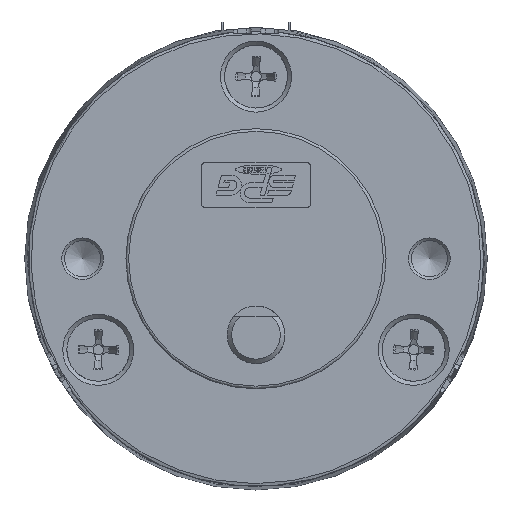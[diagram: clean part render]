
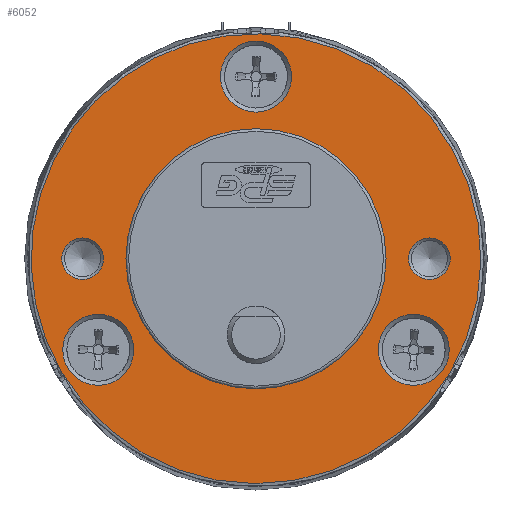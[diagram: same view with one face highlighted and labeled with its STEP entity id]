
A CAD part, front view. The second image highlights one B-rep face of the part: STEP entity #6052.
In plain terms, the highlighted planar face has unit normal (0, -1, 0).
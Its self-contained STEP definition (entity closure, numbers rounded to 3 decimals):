
#5966=CARTESIAN_POINT('',(-17.918,19.05,10.37));
#5967=VERTEX_POINT('',#5966);
#5968=CARTESIAN_POINT('',(-20.199,19.05,10.37));
#5969=DIRECTION('',(0.0,-1.0,0.0));
#5970=DIRECTION('',(-1.0,0.0,0.0));
#5971=AXIS2_PLACEMENT_3D('',#5968,#5969,#5970);
#5972=CIRCLE('',#5971,2.281);
#5973=EDGE_CURVE('',#5967,#5967,#5972,.T.);
#5978=CARTESIAN_POINT('',(-1.149,19.05,10.37));
#5979=DIRECTION('',(0.0,1.0,0.0));
#5980=DIRECTION('',(0.0,0.0,1.0));
#5981=AXIS2_PLACEMENT_3D('',#5978,#5979,#5980);
#5982=PLANE('',#5981);
#5983=CARTESIAN_POINT('',(-22.543,19.05,-1.982));
#5984=VERTEX_POINT('',#5983);
#5985=CARTESIAN_POINT('',(-1.149,19.05,10.37));
#5986=DIRECTION('',(0.0,1.0,0.0));
#5987=DIRECTION('',(0.866,0.0,0.5));
#5988=AXIS2_PLACEMENT_3D('',#5985,#5986,#5987);
#5989=CIRCLE('',#5988,24.704);
#5990=EDGE_CURVE('',#5984,#5984,#5989,.T.);
#5991=ORIENTED_EDGE('',*,*,#5990,.F.);
#5992=EDGE_LOOP('',(#5991));
#5993=FACE_OUTER_BOUND('',#5992,.T.);
#5994=CARTESIAN_POINT('',(20.182,19.05,10.37));
#5995=VERTEX_POINT('',#5994);
#5996=CARTESIAN_POINT('',(17.901,19.05,10.37));
#5997=DIRECTION('',(0.0,-1.0,0.0));
#5998=DIRECTION('',(-1.0,0.0,0.0));
#5999=AXIS2_PLACEMENT_3D('',#5996,#5997,#5998);
#6000=CIRCLE('',#5999,2.281);
#6001=EDGE_CURVE('',#5995,#5995,#6000,.T.);
#6002=ORIENTED_EDGE('',*,*,#6001,.F.);
#6003=EDGE_LOOP('',(#6002));
#6004=FACE_BOUND('',#6003,.T.);
#6005=CARTESIAN_POINT('',(13.139,19.05,10.37));
#6006=VERTEX_POINT('',#6005);
#6007=CARTESIAN_POINT('',(-1.149,19.05,10.37));
#6008=DIRECTION('',(0.0,1.0,0.0));
#6009=DIRECTION('',(-1.0,0.0,0.0));
#6010=AXIS2_PLACEMENT_3D('',#6007,#6008,#6009);
#6011=CIRCLE('',#6010,14.287);
#6012=EDGE_CURVE('',#6006,#6006,#6011,.T.);
#6013=ORIENTED_EDGE('',*,*,#6012,.T.);
#6014=EDGE_LOOP('',(#6013));
#6015=FACE_BOUND('',#6014,.T.);
#6016=CARTESIAN_POINT('',(-1.149,19.05,34.27));
#6017=VERTEX_POINT('',#6016);
#6018=CARTESIAN_POINT('',(-1.149,19.05,30.37));
#6019=DIRECTION('',(0.0,1.0,0.0));
#6020=DIRECTION('',(0.0,0.0,1.0));
#6021=AXIS2_PLACEMENT_3D('',#6018,#6019,#6020);
#6022=CIRCLE('',#6021,3.9);
#6023=EDGE_CURVE('',#6017,#6017,#6022,.T.);
#6024=ORIENTED_EDGE('',*,*,#6023,.T.);
#6025=EDGE_LOOP('',(#6024));
#6026=FACE_BOUND('',#6025,.T.);
#6027=CARTESIAN_POINT('',(-21.847,19.05,-1.58));
#6028=VERTEX_POINT('',#6027);
#6029=CARTESIAN_POINT('',(-18.469,19.05,0.37));
#6030=DIRECTION('',(0.0,1.0,0.0));
#6031=DIRECTION('',(-0.866,0.0,-0.5));
#6032=AXIS2_PLACEMENT_3D('',#6029,#6030,#6031);
#6033=CIRCLE('',#6032,3.9);
#6034=EDGE_CURVE('',#6028,#6028,#6033,.T.);
#6035=ORIENTED_EDGE('',*,*,#6034,.T.);
#6036=EDGE_LOOP('',(#6035));
#6037=FACE_BOUND('',#6036,.T.);
#6038=CARTESIAN_POINT('',(19.549,19.05,-1.58));
#6039=VERTEX_POINT('',#6038);
#6040=CARTESIAN_POINT('',(16.172,19.05,0.37));
#6041=DIRECTION('',(0.0,1.0,0.0));
#6042=DIRECTION('',(0.866,0.0,-0.5));
#6043=AXIS2_PLACEMENT_3D('',#6040,#6041,#6042);
#6044=CIRCLE('',#6043,3.9);
#6045=EDGE_CURVE('',#6039,#6039,#6044,.T.);
#6046=ORIENTED_EDGE('',*,*,#6045,.T.);
#6047=EDGE_LOOP('',(#6046));
#6048=FACE_BOUND('',#6047,.T.);
#6049=ORIENTED_EDGE('',*,*,#5973,.F.);
#6050=EDGE_LOOP('',(#6049));
#6051=FACE_BOUND('',#6050,.T.);
#6052=ADVANCED_FACE('',(#5993,#6004,#6015,#6026,#6037,#6048,#6051),#5982,.F.);
